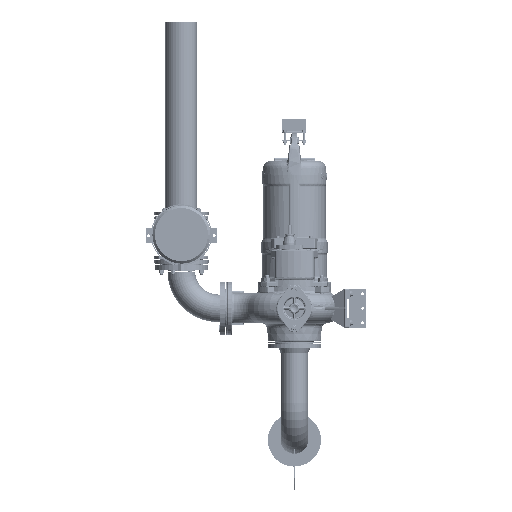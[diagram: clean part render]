
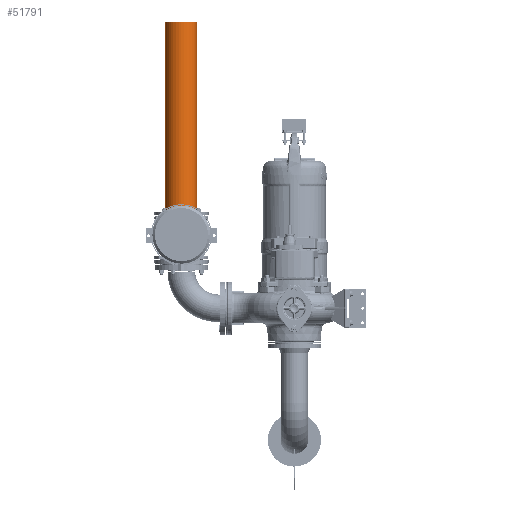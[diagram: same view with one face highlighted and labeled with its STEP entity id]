
A CAD part, top view. The second image highlights one B-rep face of the part: STEP entity #51791.
In plain terms, the highlighted cylindrical face has radius 66.5 mm (diameter 133 mm), a full revolution.
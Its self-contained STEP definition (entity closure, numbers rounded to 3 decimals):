
#7151=FACE_OUTER_BOUND('',#10455,.T.);
#10455=EDGE_LOOP('',(#35749,#35750,#35751,#35752,#35753));
#14116=CIRCLE('',#56287,66.5);
#14117=CIRCLE('',#56288,66.5);
#14118=CIRCLE('',#56290,66.5);
#17612=LINE('',#78517,#20204);
#20204=VECTOR('',#63071,66.5);
#22824=VERTEX_POINT('',#78509);
#22825=VERTEX_POINT('',#78511);
#22826=VERTEX_POINT('',#78515);
#27736=EDGE_CURVE('',#22824,#22825,#14116,.T.);
#27737=EDGE_CURVE('',#22825,#22824,#14117,.T.);
#27738=EDGE_CURVE('',#22826,#22826,#14118,.T.);
#27739=EDGE_CURVE('',#22826,#22825,#17612,.T.);
#35749=ORIENTED_EDGE('',*,*,#27738,.T.);
#35750=ORIENTED_EDGE('',*,*,#27739,.T.);
#35751=ORIENTED_EDGE('',*,*,#27736,.F.);
#35752=ORIENTED_EDGE('',*,*,#27737,.F.);
#35753=ORIENTED_EDGE('',*,*,#27739,.F.);
#50869=CYLINDRICAL_SURFACE('',#56289,66.5);
#51791=ADVANCED_FACE('',(#7151),#50869,.T.);
#56287=AXIS2_PLACEMENT_3D('',#78512,#63063,#63064);
#56288=AXIS2_PLACEMENT_3D('',#78513,#63065,#63066);
#56289=AXIS2_PLACEMENT_3D('',#78514,#63067,#63068);
#56290=AXIS2_PLACEMENT_3D('',#78516,#63069,#63070);
#63063=DIRECTION('center_axis',(0.,0.,-1.));
#63064=DIRECTION('ref_axis',(-1.,0.,0.));
#63065=DIRECTION('center_axis',(0.,0.,-1.));
#63066=DIRECTION('ref_axis',(-1.,0.,0.));
#63067=DIRECTION('center_axis',(0.,0.,1.));
#63068=DIRECTION('ref_axis',(1.,0.,0.));
#63069=DIRECTION('center_axis',(0.,0.,-1.));
#63070=DIRECTION('ref_axis',(1.,0.,0.));
#63071=DIRECTION('',(0.,0.,-1.));
#78509=CARTESIAN_POINT('',(66.5,0.,15.));
#78511=CARTESIAN_POINT('',(-66.5,0.,15.));
#78512=CARTESIAN_POINT('Origin',(0.,0.,15.));
#78513=CARTESIAN_POINT('Origin',(0.,0.,15.));
#78514=CARTESIAN_POINT('Origin',(0.,0.,0.));
#78515=CARTESIAN_POINT('',(-66.5,0.,800.));
#78516=CARTESIAN_POINT('Origin',(0.,0.,800.));
#78517=CARTESIAN_POINT('',(-66.5,0.,0.));
